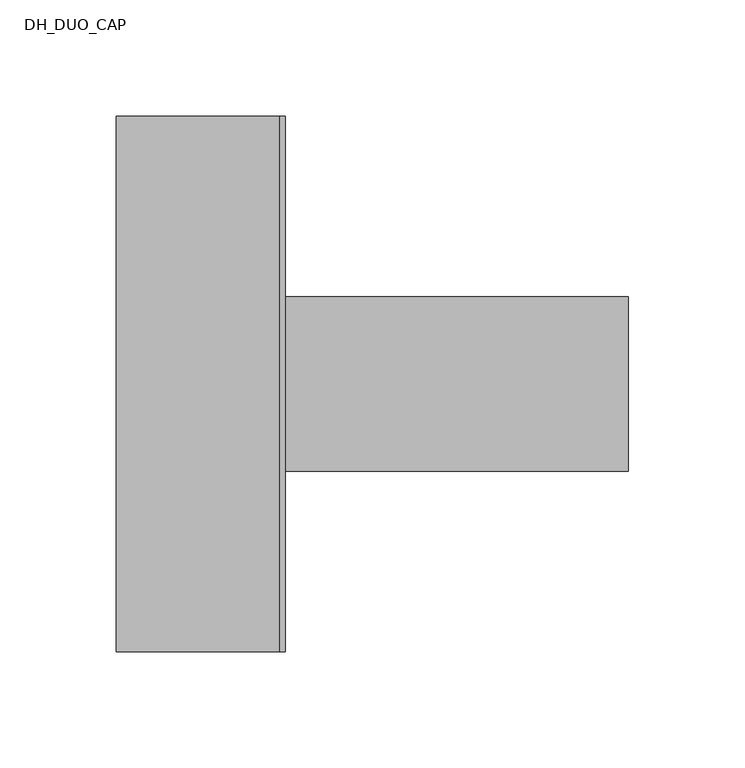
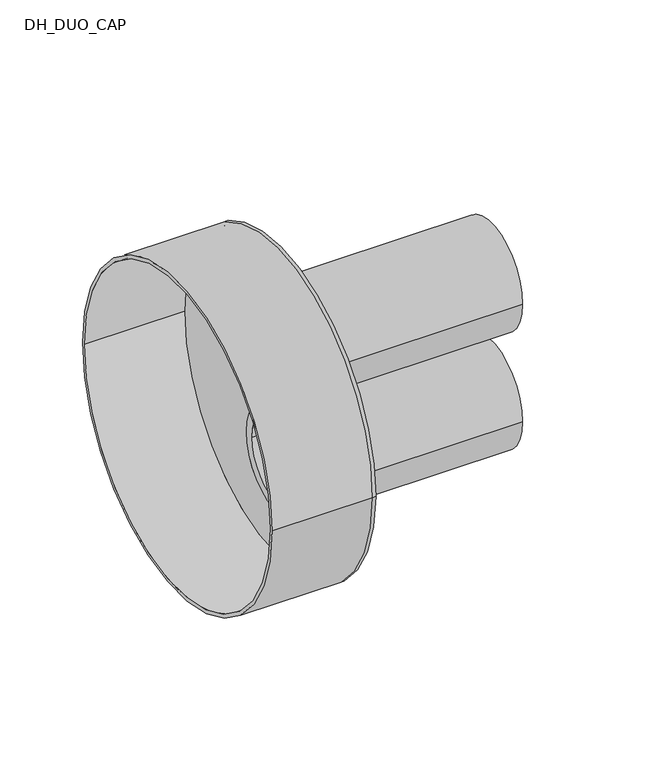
"""IFC4 building model written with IfcOpenShell, lengths in millimetres: pipe fitting geometry, DH_DUO_CAP : RAUVIPEX DUO 11 Heating - Solid Cap."""

from ifc_helpers import new_model, si_unit, point, frame, frame_2d, origin, place, context, project, spatial, polyline, circle_curve, trimmed, segment, composite_curve, outline, extrude, source, transform, mapped, element, save
from ifc_brep_helpers import plane_surface, cylinder_surface, revolved_surface, advanced_brep


def dh_duo_cap_95b3e528(model_context):
    return source(origin(), model_context, "Body", "SolidModel", [
        extrude(outline(composite_curve([segment(trimmed(circle_curve(frame_2d((0.0, -43.5)), 37.5), [point((-37.5, -43.5))], [point((37.5, -43.5))], False, "CARTESIAN"), True, "CONTINUOUS"), segment(trimmed(circle_curve(frame_2d((0.0, -43.5)), 37.5), [point((37.5, -43.5))], [point((-37.5, -43.5))], False, "CARTESIAN"), True, "CONTINUOUS")], self_intersect=False), holes=[composite_curve([segment(trimmed(circle_curve(frame_2d((0.0, -43.5)), 30.7), [point((-30.7, -43.5))], [point((30.7, -43.5))], True, "CARTESIAN"), True, "CONTINUOUS"), segment(trimmed(circle_curve(frame_2d((0.0, -43.5)), 30.7), [point((30.7, -43.5))], [point((-30.7, -43.5))], True, "CARTESIAN"), True, "CONTINUOUS")], self_intersect=False)]), frame((0.0, 0.0, 0.0), z_axis=(1.0, 0.0, 0.0), x_axis=(0.0, 1.0, 0.0)), (0.0, 0.0, 1.0), 150.0),
        extrude(outline(composite_curve([segment(trimmed(circle_curve(frame_2d((0.0, 43.5)), 37.5), [point((-37.5, 43.5))], [point((37.5, 43.5))], False, "CARTESIAN"), True, "CONTINUOUS"), segment(trimmed(circle_curve(frame_2d((0.0, 43.5)), 37.5), [point((37.5, 43.5))], [point((-37.5, 43.5))], False, "CARTESIAN"), True, "CONTINUOUS")], self_intersect=False), holes=[composite_curve([segment(trimmed(circle_curve(frame_2d((0.0, 43.5)), 30.7), [point((-30.7, 43.5))], [point((30.7, 43.5))], True, "CARTESIAN"), True, "CONTINUOUS"), segment(trimmed(circle_curve(frame_2d((0.0, 43.5)), 30.7), [point((30.7, 43.5))], [point((-30.7, 43.5))], True, "CARTESIAN"), True, "CONTINUOUS")], self_intersect=False)]), frame((0.0, 0.0, 0.0), z_axis=(1.0, 0.0, 0.0), x_axis=(0.0, 1.0, 0.0)), (0.0, 0.0, 1.0), 150.0),
        advanced_brep(
        [(-70.0, -115.0, 0.0), (-70.0, 115.0, 0.0), (-70.0, -112.5, 0.0), (-70.0, 112.5, 0.0), (0.0, -112.5, 0.0), (0.0, 112.5, 0.0), (0.0, -115.0, 0.0), (0.0, 115.0, 0.0), (0.0, 37.5, 43.5), (0.0, -37.5, 43.5), (0.0, 37.5, -43.5), (0.0, -37.5, -43.5), (2.5, -115.0, 0.0), (2.5, 115.0, 0.0), (2.5, -37.5, 43.5), (2.5, 37.5, 43.5), (2.5, -37.5, -43.5), (2.5, 37.5, -43.5)],
        [
            (0, 1, circle_curve(frame((-70.0, 0.0, 0.0), z_axis=(-1.0, 0.0, 0.0), x_axis=(0.0, 1.0, 0.0)), 115.0)),
            (1, 0, circle_curve(frame((-70.0, 0.0, 0.0), z_axis=(-1.0, 0.0, 0.0), x_axis=(0.0, 1.0, 0.0)), 115.0)),
            (2, 3, circle_curve(frame((-70.0, 0.0, 0.0), z_axis=(1.0, 0.0, 0.0), x_axis=(0.0, 1.0, 0.0)), 112.5)),
            (3, 2, circle_curve(frame((-70.0, 0.0, 0.0), z_axis=(1.0, 0.0, 0.0), x_axis=(0.0, 1.0, 0.0)), 112.5)),
            (2, 4),
            (4, 5, circle_curve(frame((0.0, 0.0, 0.0), z_axis=(1.0, 0.0, 0.0), x_axis=(0.0, 1.0, 0.0)), 112.5)),
            (5, 3),
            (5, 4, circle_curve(frame((0.0, 0.0, 0.0), z_axis=(1.0, 0.0, 0.0), x_axis=(0.0, 1.0, 0.0)), 112.5)),
            (0, 6),
            (6, 7, circle_curve(frame((0.0, 0.0, 0.0), z_axis=(-1.0, 0.0, 0.0), x_axis=(0.0, 1.0, 0.0)), 115.0)),
            (7, 1),
            (7, 6, circle_curve(frame((0.0, 0.0, 0.0), z_axis=(-1.0, 0.0, 0.0), x_axis=(0.0, 1.0, 0.0)), 115.0)),
            (8, 9, circle_curve(frame((0.0, 0.0, 43.5), z_axis=(1.0, 0.0, 0.0), x_axis=(0.0, 1.0, 0.0)), 37.5)),
            (9, 8, circle_curve(frame((0.0, 0.0, 43.5), z_axis=(1.0, 0.0, 0.0), x_axis=(0.0, 1.0, 0.0)), 37.5)),
            (10, 11, circle_curve(frame((0.0, 0.0, -43.5), z_axis=(1.0, 0.0, 0.0), x_axis=(0.0, 1.0, 0.0)), 37.5)),
            (11, 10, circle_curve(frame((0.0, 0.0, -43.5), z_axis=(1.0, 0.0, 0.0), x_axis=(0.0, 1.0, 0.0)), 37.5)),
            (12, 13, circle_curve(frame((2.5, 0.0, 0.0), z_axis=(1.0, 0.0, 0.0), x_axis=(0.0, 1.0, 0.0)), 115.0)),
            (13, 12, circle_curve(frame((2.5, 0.0, 0.0), z_axis=(1.0, 0.0, 0.0), x_axis=(0.0, 1.0, 0.0)), 115.0)),
            (14, 15, circle_curve(frame((2.5, 0.0, 43.5), z_axis=(-1.0, 0.0, 0.0), x_axis=(0.0, 1.0, 0.0)), 37.5)),
            (15, 14, circle_curve(frame((2.5, 0.0, 43.5), z_axis=(-1.0, 0.0, 0.0), x_axis=(0.0, 1.0, 0.0)), 37.5)),
            (16, 17, circle_curve(frame((2.5, 0.0, -43.5), z_axis=(-1.0, 0.0, 0.0), x_axis=(0.0, 1.0, 0.0)), 37.5)),
            (17, 16, circle_curve(frame((2.5, 0.0, -43.5), z_axis=(-1.0, 0.0, 0.0), x_axis=(0.0, 1.0, 0.0)), 37.5)),
            (13, 7),
            (6, 12),
            (8, 15),
            (14, 9),
            (10, 17),
            (16, 11),
        ],
        [
            plane_surface(frame((-70.0, 0.0, 0.0), z_axis=(-1.0, 0.0, 0.0), x_axis=(0.0, 0.0, 1.0))),
            revolved_surface(polyline([(0.0, 112.5, 0.0), (-70.0, 112.5, 0.0)]), (-70.0, 0.0, 0.0), (1.0, 0.0, 0.0)),
            cylinder_surface(frame((-70.0, 0.0, 0.0), z_axis=(-1.0, 0.0, 0.0), x_axis=(0.0, 1.0, 0.0)), 115.0),
            plane_surface(frame((0.0, 0.0, 0.0), z_axis=(-1.0, 0.0, 0.0), x_axis=(0.0, 0.0, 1.0))),
            plane_surface(frame((2.5, 0.0, 0.0), z_axis=(1.0, 0.0, 0.0), x_axis=(0.0, 0.0, 1.0))),
            cylinder_surface(frame((0.0, 0.0, 0.0), z_axis=(-1.0, 0.0, 0.0), x_axis=(0.0, 1.0, 0.0)), 115.0),
            revolved_surface(polyline([(0.0, 37.5, 43.5), (2.5, 37.5, 43.5)]), (0.0, 0.0, 43.5), (-1.0, 0.0, 0.0)),
            revolved_surface(polyline([(0.0, 37.5, -43.5), (2.5, 37.5, -43.5)]), (0.0, 0.0, -43.5), (-1.0, 0.0, 0.0)),
        ],
        [
            (0, [[1, 2], [3, 4]]),
            (1, [[-3, 5, 6, 7]]),
            (1, [[-4, -7, 8, -5]]),
            (2, [[-1, 9, 10, 11]]),
            (2, [[-2, -11, 12, -9]]),
            (3, [[-6, -8], [13, 14], [15, 16]]),
            (4, [[17, 18], [19, 20], [21, 22]]),
            (5, [[-18, 23, -10, 24]]),
            (5, [[-17, -24, -12, -23]]),
            (6, [[25, -19, 26, -13]]),
            (6, [[-25, -14, -26, -20]]),
            (7, [[27, -21, 28, -15]]),
            (7, [[-27, -16, -28, -22]]),
        ],
    ),
    ])


if __name__ == "__main__":
    model = new_model("IFC4")
    model_context = context("Model", 3, world=origin())
    ifc_project = project(units=[si_unit("LENGTHUNIT", "METRE", prefix="MILLI")], contexts=[model_context])
    site = spatial("IfcSite", under=ifc_project)
    building = spatial("IfcBuilding", under=site)
    placement = place(None, origin())
    dh_duo_cap_shape = dh_duo_cap_95b3e528(model_context)
    element("IfcPipeFitting", 1, ObjectType="DH_DUO_CAP : RAUVIPEX DUO 11 Heating - Solid Cap", at=placement, inside=building, context=model_context, shape_type="MappedRepresentation", body=[
        mapped(dh_duo_cap_shape, transform((0.0, 0.0, 0.0), x_axis=(1.0, 0.0, 0.0), y_axis=(0.0, 1.0, 0.0), z_axis=(0.0, 0.0, 1.0))),
    ])
    save(model, "model.ifc")
